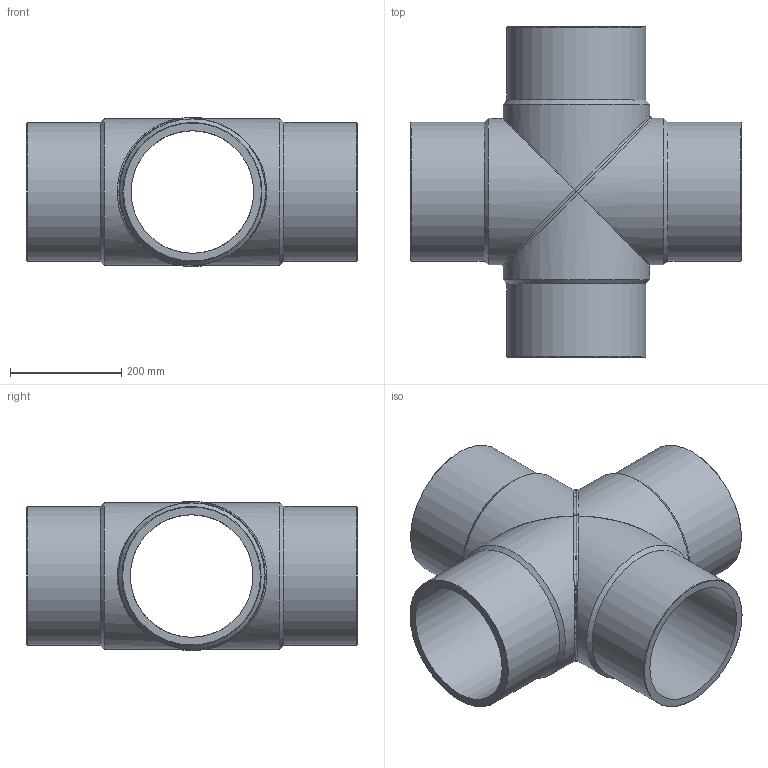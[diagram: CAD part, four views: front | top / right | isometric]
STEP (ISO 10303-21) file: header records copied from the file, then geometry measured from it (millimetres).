
FILE_DESCRIPTION(/* description */ ('Unknown'),/* implementation_level */ '2;1');
FILE_NAME(/* name */ 'CRP250B',/* time_stamp */ '2022-07-08T11:07:46+02:00',/* author */ ('Unknown'),/* organization */ ('Unknown'),/* preprocessor_version */ 'ST-DEVELOPER v18.102',/* originating_system */ 'Solid Edge',/* authorisation */ 'Unknown');
FILE_SCHEMA (('AUTOMOTIVE_DESIGN {1 0 10303 214 3 1 1}'));
Length unit declared in the file: millimetre
Products named in the file (3): CRP250B; CRP250B_mir
Assembly tree (2 placements, depth 2):
  CRP250B
    CRP250B
    CRP250B_mir
Bounding box: 594.5 x 594.5 x 267.99 mm (x, y, z)
Volume: 11396598.4 mm3; surface area: 1410198.8 mm2
Topology: 2 solids, 2 shells, 32 faces, 86 edges, 56 vertices
Faces by surface type: cylinder 12, cone 8, plane 6, bspline 6
Full cylindrical faces by diameter (mm): 220.4 x4, 250 x4, 263 x4
Entity records: 3593 total; most frequent: CARTESIAN_POINT 2885, DIRECTION 126, ORIENTED_EDGE 112, AXIS2_PLACEMENT_3D 63, EDGE_LOOP 58, FACE_BOUND 58, EDGE_CURVE 56, VERTEX_POINT 46
